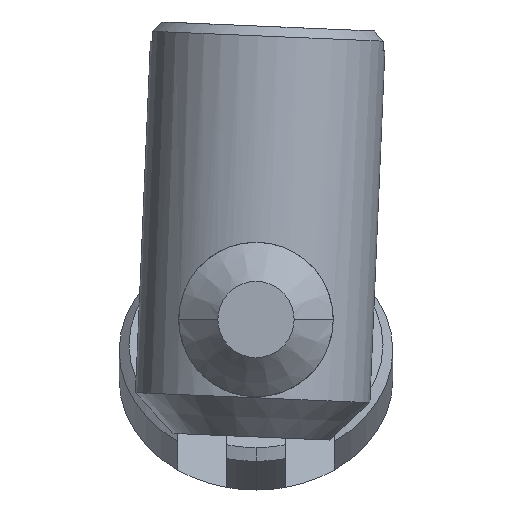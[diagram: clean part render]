
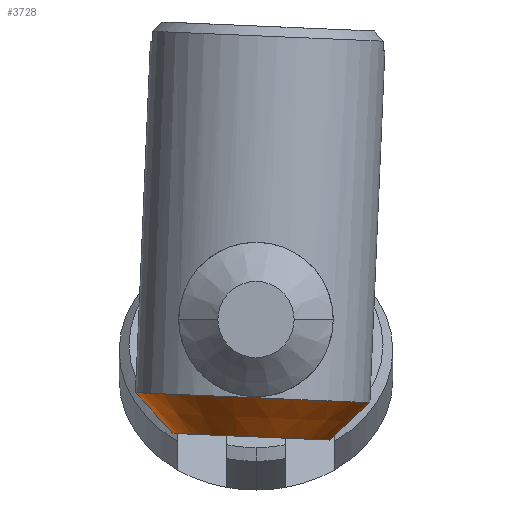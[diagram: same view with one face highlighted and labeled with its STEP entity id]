
A CAD part, front view. The second image highlights one B-rep face of the part: STEP entity #3728.
In plain terms, the highlighted conical face has half-angle 45 degrees and reference radius 4 mm.
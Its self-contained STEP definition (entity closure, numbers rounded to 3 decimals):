
#129 = DIRECTION ( 'NONE',  ( 0.042, 0., 0.999 ) ) ;
#187 = CARTESIAN_POINT ( 'NONE',  ( 12.077, -5.438, -5.305 ) ) ;
#233 = VERTEX_POINT ( 'NONE', #988 ) ;
#241 = CARTESIAN_POINT ( 'NONE',  ( 18.156, -5.438, -3.561 ) ) ;
#311 = DIRECTION ( 'NONE',  ( 0.999, 0., -0.042 ) ) ;
#375 = ORIENTED_EDGE ( 'NONE', *, *, #3571, .F. ) ;
#409 = VERTEX_POINT ( 'NONE', #1300 ) ;
#700 = CARTESIAN_POINT ( 'NONE',  ( 8.08, -5.438, -5.135 ) ) ;
#784 = ORIENTED_EDGE ( 'NONE', *, *, #1858, .F. ) ;
#895 = EDGE_CURVE ( 'NONE', #4260, #2541, #3561, .T. ) ;
#918 = ORIENTED_EDGE ( 'NONE', *, *, #895, .T. ) ;
#988 = CARTESIAN_POINT ( 'NONE',  ( 8.08, -5.438, -5.135 ) ) ;
#1119 = DIRECTION ( 'NONE',  ( -0.999, 0., 0.042 ) ) ;
#1126 = DIRECTION ( 'NONE',  ( 0.042, 0., 0.999 ) ) ;
#1159 = FACE_OUTER_BOUND ( 'NONE', #3544, .T. ) ;
#1171 = CARTESIAN_POINT ( 'NONE',  ( 12.162, -5.438, -3.306 ) ) ;
#1300 = CARTESIAN_POINT ( 'NONE',  ( 6.167, -5.438, -3.051 ) ) ;
#1416 = AXIS2_PLACEMENT_3D ( 'NONE', #1171, #1126, #1119 ) ;
#1633 = LINE ( 'NONE', #700, #3776 ) ;
#1858 = EDGE_CURVE ( 'NONE', #233, #409, #1633, .T. ) ;
#2541 = VERTEX_POINT ( 'NONE', #241 ) ;
#2552 = DIRECTION ( 'NONE',  ( -0.676, 0., 0.737 ) ) ;
#2614 = ORIENTED_EDGE ( 'NONE', *, *, #4350, .F. ) ;
#2717 = CARTESIAN_POINT ( 'NONE',  ( 16.073, -5.438, -5.474 ) ) ;
#2845 = DIRECTION ( 'NONE',  ( 0.737, 0., 0.676 ) ) ;
#2876 = CARTESIAN_POINT ( 'NONE',  ( 16.073, -5.438, -5.474 ) ) ;
#3010 = AXIS2_PLACEMENT_3D ( 'NONE', #3658, #3646, #3628 ) ;
#3395 = CIRCLE ( 'NONE', #1416, 6. ) ;
#3445 = VECTOR ( 'NONE', #2845, 1000. ) ;
#3524 = CIRCLE ( 'NONE', #3010, 4. ) ;
#3544 = EDGE_LOOP ( 'NONE', ( #784, #2614, #918, #375 ) ) ;
#3561 = LINE ( 'NONE', #2717, #3445 ) ;
#3570 = CONICAL_SURFACE ( 'NONE', #3944, 4., 0.785 ) ;
#3571 = EDGE_CURVE ( 'NONE', #409, #2541, #3395, .T. ) ;
#3628 = DIRECTION ( 'NONE',  ( -0.999, 0., 0.042 ) ) ;
#3646 = DIRECTION ( 'NONE',  ( -0.042, 0., -0.999 ) ) ;
#3658 = CARTESIAN_POINT ( 'NONE',  ( 12.077, -5.438, -5.305 ) ) ;
#3728 = ADVANCED_FACE ( 'NONE', ( #1159 ), #3570, .T. ) ;
#3776 = VECTOR ( 'NONE', #2552, 1000. ) ;
#3944 = AXIS2_PLACEMENT_3D ( 'NONE', #187, #129, #311 ) ;
#4260 = VERTEX_POINT ( 'NONE', #2876 ) ;
#4350 = EDGE_CURVE ( 'NONE', #4260, #233, #3524, .T. ) ;
